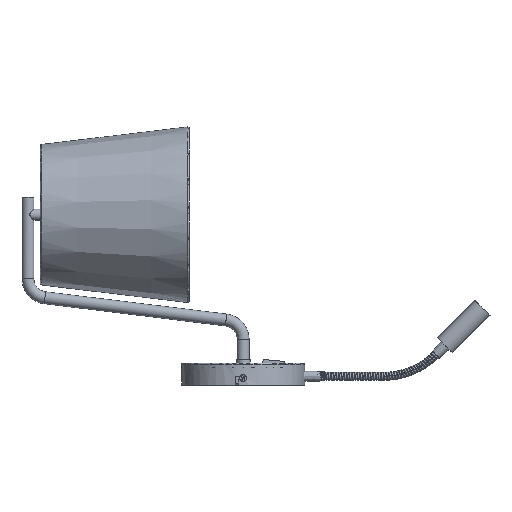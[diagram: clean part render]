
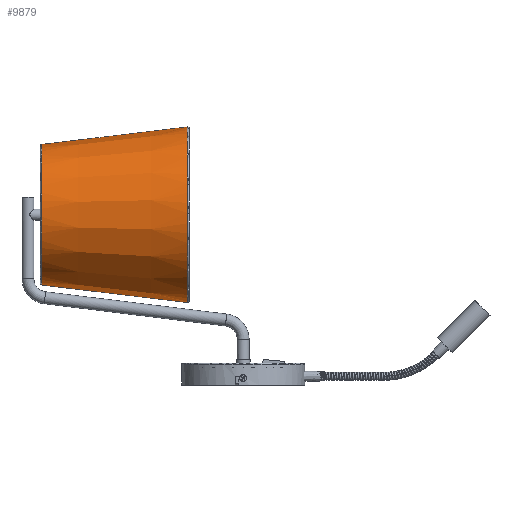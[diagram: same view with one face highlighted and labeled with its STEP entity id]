
A CAD part, left-side view. The second image highlights one B-rep face of the part: STEP entity #9879.
In plain terms, the highlighted conical face has half-angle 6.879 degrees and reference radius 81.998 mm.
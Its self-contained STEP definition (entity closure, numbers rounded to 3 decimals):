
#48=CONICAL_SURFACE('',#10467,81.998,0.12);
#701=B_SPLINE_CURVE_WITH_KNOTS('',3,(#39443,#39444,#39445,#39446,#39447,
#39448,#39449,#39450,#39451,#39452,#39453),.UNSPECIFIED.,.F.,.F.,(4,1,1,
1,1,1,1,1,4),(0.,0.125,0.25,0.375,0.5,0.625,0.75,0.875,1.),
 .UNSPECIFIED.);
#703=B_SPLINE_CURVE_WITH_KNOTS('',3,(#39511,#39512,#39513,#39514,#39515,
#39516,#39517,#39518,#39519,#39520,#39521,#39522),.UNSPECIFIED.,.F.,.F.,
(4,1,1,1,1,1,1,1,1,4),(0.,0.111,0.222,0.333,
0.444,0.556,0.667,0.778,
0.889,1.),.UNSPECIFIED.);
#1387=LINE('',#39538,#2183);
#1388=LINE('',#39539,#2184);
#2183=VECTOR('',#12174,304.8);
#2184=VECTOR('',#12175,304.8);
#2908=FACE_OUTER_BOUND('',#3410,.T.);
#3410=EDGE_LOOP('',(#8679,#8680,#8681,#8682));
#4632=VERTEX_POINT('',#39437);
#4634=VERTEX_POINT('',#39441);
#4645=VERTEX_POINT('',#39508);
#4646=VERTEX_POINT('',#39510);
#6146=EDGE_CURVE('',#4632,#4634,#701,.T.);
#6170=EDGE_CURVE('',#4646,#4645,#703,.T.);
#6173=EDGE_CURVE('',#4632,#4645,#1387,.T.);
#6174=EDGE_CURVE('',#4646,#4634,#1388,.T.);
#8679=ORIENTED_EDGE('',*,*,#6173,.F.);
#8680=ORIENTED_EDGE('',*,*,#6146,.T.);
#8681=ORIENTED_EDGE('',*,*,#6174,.F.);
#8682=ORIENTED_EDGE('',*,*,#6170,.T.);
#9879=ADVANCED_FACE('',(#2908),#48,.T.);
#10467=AXIS2_PLACEMENT_3D('',#39537,#12172,#12173);
#12172=DIRECTION('center_axis',(0.,0.,
-1.));
#12173=DIRECTION('ref_axis',(1.,0.,0.));
#12174=DIRECTION('',(0.,0.12,-0.993));
#12175=DIRECTION('',(0.,0.12,0.993));
#39437=CARTESIAN_POINT('',(0.,274.,229.213));
#39441=CARTESIAN_POINT('',(0.,114.,229.213));
#39443=CARTESIAN_POINT('Ctrl Pts',(0.,274.,
229.213));
#39444=CARTESIAN_POINT('Ctrl Pts',(10.514,274.106,229.213));
#39445=CARTESIAN_POINT('Ctrl Pts',(31.392,269.786,229.213));
#39446=CARTESIAN_POINT('Ctrl Pts',(58.047,252.055,229.213));
#39447=CARTESIAN_POINT('Ctrl Pts',(75.833,225.409,229.213));
#39448=CARTESIAN_POINT('Ctrl Pts',(82.084,194.,229.213));
#39449=CARTESIAN_POINT('Ctrl Pts',(75.833,162.591,229.213));
#39450=CARTESIAN_POINT('Ctrl Pts',(58.047,135.945,229.213));
#39451=CARTESIAN_POINT('Ctrl Pts',(31.392,118.214,229.213));
#39452=CARTESIAN_POINT('Ctrl Pts',(10.514,113.894,229.213));
#39453=CARTESIAN_POINT('Ctrl Pts',(0.,114.,
229.213));
#39508=CARTESIAN_POINT('',(0.,293.979,63.614));
#39510=CARTESIAN_POINT('',(0.,94.021,63.614));
#39511=CARTESIAN_POINT('Ctrl Pts',(0.,94.021,
63.614));
#39512=CARTESIAN_POINT('Ctrl Pts',(11.663,93.937,63.614));
#39513=CARTESIAN_POINT('Ctrl Pts',(34.882,98.161,63.614));
#39514=CARTESIAN_POINT('Ctrl Pts',(65.588,115.83,63.614));
#39515=CARTESIAN_POINT('Ctrl Pts',(88.36,142.988,63.614));
#39516=CARTESIAN_POINT('Ctrl Pts',(100.481,176.282,63.614));
#39517=CARTESIAN_POINT('Ctrl Pts',(100.481,211.718,63.614));
#39518=CARTESIAN_POINT('Ctrl Pts',(88.36,245.012,63.614));
#39519=CARTESIAN_POINT('Ctrl Pts',(65.588,272.17,63.614));
#39520=CARTESIAN_POINT('Ctrl Pts',(34.882,289.839,63.614));
#39521=CARTESIAN_POINT('Ctrl Pts',(11.663,294.063,63.614));
#39522=CARTESIAN_POINT('Ctrl Pts',(0.,293.979,
63.614));
#39537=CARTESIAN_POINT('Origin',(0.,194.,212.653));
#39538=CARTESIAN_POINT('',(0.,274.,229.213));
#39539=CARTESIAN_POINT('',(0.,94.021,63.614));
